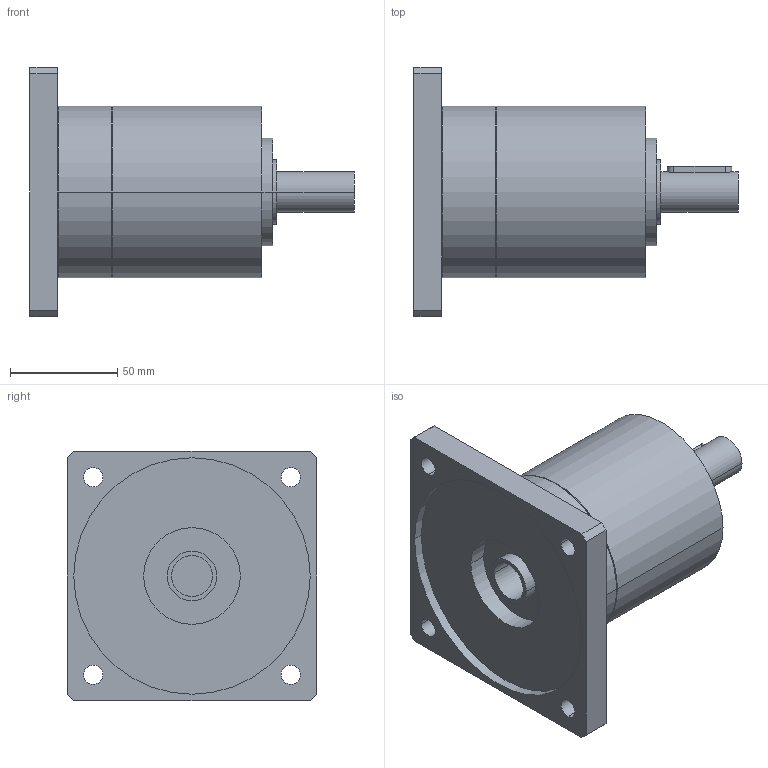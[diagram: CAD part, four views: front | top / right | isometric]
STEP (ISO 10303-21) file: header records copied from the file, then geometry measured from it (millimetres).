
FILE_DESCRIPTION(('CoCreate Modeling STEP Export'),'2;1');
FILE_NAME('GPR100_ig-3-4-5-6_19_B14_19_P08.stp','2014-08-26T10:08:37',(''),(''),'CoCreate Modeling STEP processor for AP214 (Solid Model)','CoCreate Modeling 16.00C 25-Feb-2009 (C) Parametric Technology GmbH','');
FILE_SCHEMA(('AUTOMOTIVE_DESIGN { 1 0 10303 214 1 1 1 1 }'));
Length unit declared in the file: millimetre
Products named in the file (2): GPR100_ig-3-4-5-6_19_B14_19_P08
Assembly tree (1 placements, depth 2):
  GPR100_ig-3-4-5-6_19_B14_19_P08
    GPR100_ig-3-4-5-6_19_B14_19_P08
Bounding box: 151 x 116 x 116 mm (x, y, z)
Volume: 604725.9 mm3; surface area: 68078 mm2
Topology: 1 solids, 1 shells, 70 faces, 190 edges, 134 vertices
Faces by surface type: cylinder 42, plane 22, cone 6
Entity records: 1949 total; most frequent: ORIENTED_EDGE 376, CARTESIAN_POINT 362, DIRECTION 262, EDGE_CURVE 188, VERTEX_POINT 134, AXIS2_PLACEMENT_3D 98, EDGE_LOOP 92, FACE_OUTER_BOUND 70
